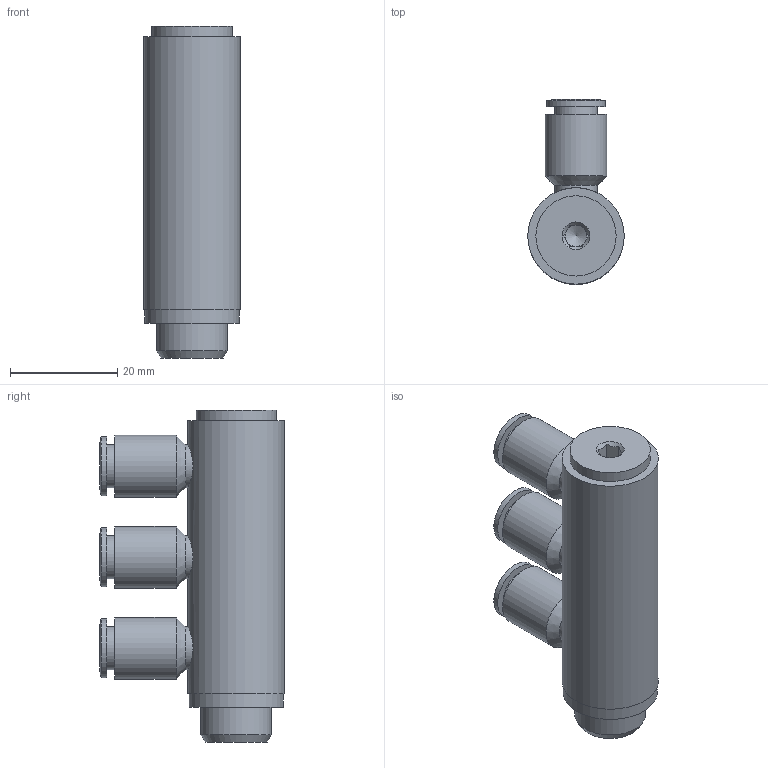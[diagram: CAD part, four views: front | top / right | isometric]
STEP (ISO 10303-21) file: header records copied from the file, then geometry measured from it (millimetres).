
FILE_DESCRIPTION((''),'2;1');
FILE_NAME('C:\Documents and Settings\rivolro1\Documenti\copia di Raccordi\PLASTICA\T34XXXX\T340614.stp','2007-11-03T09:17:07',('Rivolro1'),(''),'Autodesk Inventor 2008','Autodesk Inventor 2008','');
FILE_SCHEMA(('AUTOMOTIVE_DESIGN { 1 0 10303 214 1 1 1 1 }'));
Length unit declared in the file: millimetre
Products named in the file (1): T340614
Bounding box: 18 x 34.5 x 62 mm (x, y, z)
Volume: 17496.6 mm3; surface area: 7446.9 mm2
Topology: 1 solids, 1 shells, 64 faces, 124 edges, 80 vertices
Faces by surface type: plane 26, cylinder 16, bspline 15, cone 7
Full cylindrical faces by diameter (mm): 8 x6, 11 x3, 11.5 x3, 13.2 x1, 15 x1, 17.6 x1, 18 x1
Entity records: 1814 total; most frequent: CARTESIAN_POINT 627, DIRECTION 224, ORIENTED_EDGE 172, EDGE_LOOP 114, AXIS2_PLACEMENT_3D 103, EDGE_CURVE 86, VERTEX_POINT 74, FACE_OUTER_BOUND 64
